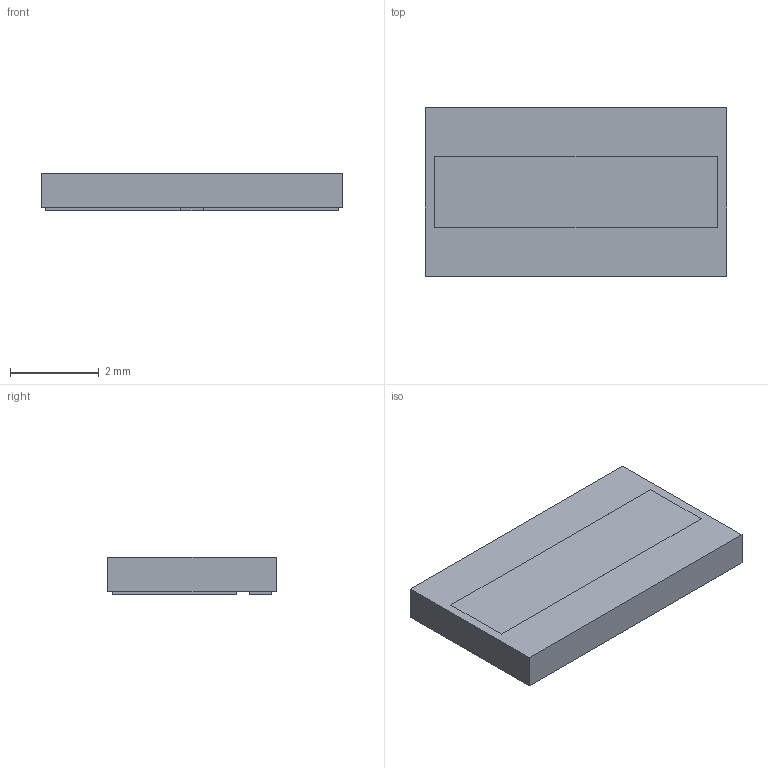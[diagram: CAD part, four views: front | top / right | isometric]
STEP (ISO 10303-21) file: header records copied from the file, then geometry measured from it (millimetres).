
FILE_DESCRIPTION (( 'STEP AP214' ), '1' );
FILE_NAME ('HGL4-F5.STEP', '2019-12-31T01:39:39', ( 'PC' ), ( 'Microsoft' ), 'SwSTEP 2.0', 'SolidWorks 2018', '' );
FILE_SCHEMA (( 'AUTOMOTIVE_DESIGN' ));
Length unit declared in the file: millimetre
Products named in the file (1): HGL4-F5
Bounding box: 6.8 x 3.8 x 0.85 mm (x, y, z)
Volume: 21.7 mm3; surface area: 70.5 mm2
Topology: 1 solids, 1 shells, 36 faces, 87 edges, 58 vertices
Faces by surface type: plane 36
Entity records: 1461 total; most frequent: CARTESIAN_POINT 182, ORIENTED_EDGE 174, DIRECTION 161, LINE 87, EDGE_CURVE 87, VECTOR 87, VERTEX_POINT 58, EDGE_LOOP 41
